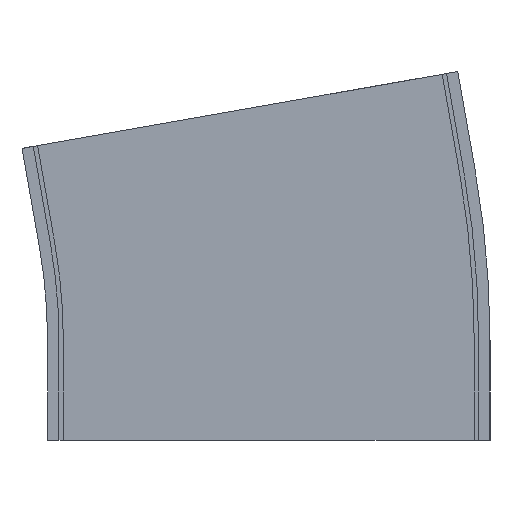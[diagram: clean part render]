
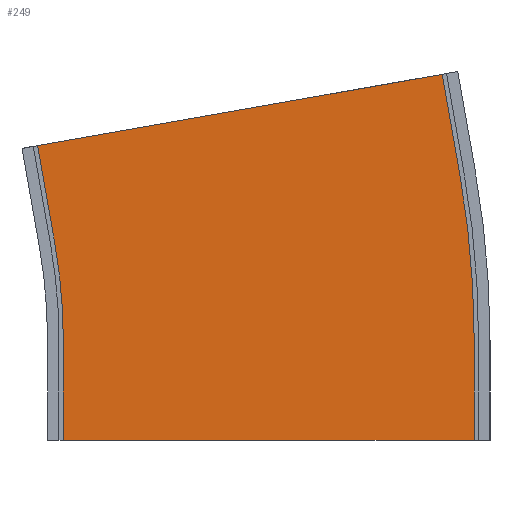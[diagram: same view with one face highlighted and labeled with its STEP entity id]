
A CAD part, front view. The second image highlights one B-rep face of the part: STEP entity #249.
In plain terms, the highlighted planar face has unit normal (0, -1, 0).
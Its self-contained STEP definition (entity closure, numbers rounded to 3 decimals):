
#52 = EDGE_CURVE ( 'NONE', #1916, #512, #1561, .T. ) ;
#56 = DIRECTION ( 'NONE',  ( 0.174, 0., -0.985 ) ) ;
#84 = EDGE_CURVE ( 'NONE', #2096, #1271, #615, .T. ) ;
#137 = CARTESIAN_POINT ( 'NONE',  ( 0., -68.25, -52.5 ) ) ;
#148 = DIRECTION ( 'NONE',  ( 0., 0., 1. ) ) ;
#198 = DIRECTION ( 'NONE',  ( 0.174, 0., -0.985 ) ) ;
#201 = ORIENTED_EDGE ( 'NONE', *, *, #84, .F. ) ;
#237 = EDGE_CURVE ( 'NONE', #397, #2291, #1264, .T. ) ;
#249 = ADVANCED_FACE ( 'NONE', ( #1466 ), #1259, .F. ) ;
#255 = VECTOR ( 'NONE', #198, 1000. ) ;
#256 = ORIENTED_EDGE ( 'NONE', *, *, #1845, .T. ) ;
#267 = ORIENTED_EDGE ( 'NONE', *, *, #1706, .T. ) ;
#282 = CARTESIAN_POINT ( 'NONE',  ( 500.233, -68.25, 88.205 ) ) ;
#314 = LINE ( 'NONE', #2038, #909 ) ;
#339 = EDGE_CURVE ( 'NONE', #2291, #1747, #314, .T. ) ;
#373 = LINE ( 'NONE', #388, #1651 ) ;
#388 = CARTESIAN_POINT ( 'NONE',  ( 507.95, -68.25, -52.5 ) ) ;
#397 = VERTEX_POINT ( 'NONE', #1480 ) ;
#506 = EDGE_CURVE ( 'NONE', #1271, #1916, #952, .T. ) ;
#507 = CARTESIAN_POINT ( 'NONE',  ( 292.05, -68.25, -52.5 ) ) ;
#508 = DIRECTION ( 'NONE',  ( 0., 1., 0. ) ) ;
#512 = VERTEX_POINT ( 'NONE', #565 ) ;
#565 = CARTESIAN_POINT ( 'NONE',  ( 507.95, -68.25, 0. ) ) ;
#615 = LINE ( 'NONE', #1173, #1057 ) ;
#666 = ORIENTED_EDGE ( 'NONE', *, *, #237, .F. ) ;
#728 = ORIENTED_EDGE ( 'NONE', *, *, #2433, .T. ) ;
#880 = VECTOR ( 'NONE', #1659, 1000. ) ;
#901 = AXIS2_PLACEMENT_3D ( 'NONE', #1187, #1948, #1757 ) ;
#904 = CARTESIAN_POINT ( 'NONE',  ( 278.497, -68.25, 102.416 ) ) ;
#909 = VECTOR ( 'NONE', #148, 1000. ) ;
#932 = ORIENTED_EDGE ( 'NONE', *, *, #506, .F. ) ;
#952 = LINE ( 'NONE', #2111, #255 ) ;
#1043 = ORIENTED_EDGE ( 'NONE', *, *, #339, .F. ) ;
#1057 = VECTOR ( 'NONE', #2320, 1000. ) ;
#1090 = ORIENTED_EDGE ( 'NONE', *, *, #52, .F. ) ;
#1115 = EDGE_LOOP ( 'NONE', ( #256, #1043, #666, #728, #1090, #932, #201, #267 ) ) ;
#1173 = CARTESIAN_POINT ( 'NONE',  ( -9.117, -68.25, 51.702 ) ) ;
#1186 = CARTESIAN_POINT ( 'NONE',  ( 292.05, -68.25, 0. ) ) ;
#1187 = CARTESIAN_POINT ( 'NONE',  ( 0., -68.25, 0. ) ) ;
#1199 = CARTESIAN_POINT ( 'NONE',  ( 278.497, -68.25, 102.416 ) ) ;
#1259 = PLANE ( 'NONE',  #2145 ) ;
#1264 = LINE ( 'NONE', #137, #880 ) ;
#1271 = VERTEX_POINT ( 'NONE', #2150 ) ;
#1466 = FACE_OUTER_BOUND ( 'NONE', #1115, .T. ) ;
#1480 = CARTESIAN_POINT ( 'NONE',  ( 507.95, -68.25, -52.5 ) ) ;
#1523 = DIRECTION ( 'NONE',  ( 0., 0., 1. ) ) ;
#1561 = CIRCLE ( 'NONE', #901, 507.95 ) ;
#1621 = DIRECTION ( 'NONE',  ( 0., 1., 0. ) ) ;
#1639 = CARTESIAN_POINT ( 'NONE',  ( 0., -68.25, 0. ) ) ;
#1651 = VECTOR ( 'NONE', #1523, 1000. ) ;
#1659 = DIRECTION ( 'NONE',  ( -1., 0., 0. ) ) ;
#1693 = CARTESIAN_POINT ( 'NONE',  ( 287.613, -68.25, 50.714 ) ) ;
#1706 = EDGE_CURVE ( 'NONE', #2096, #1984, #1840, .T. ) ;
#1747 = VERTEX_POINT ( 'NONE', #1186 ) ;
#1757 = DIRECTION ( 'NONE',  ( -1., 0., 0. ) ) ;
#1835 = CARTESIAN_POINT ( 'NONE',  ( 287.613, -68.25, 50.714 ) ) ;
#1840 = LINE ( 'NONE', #1199, #1922 ) ;
#1845 = EDGE_CURVE ( 'NONE', #1984, #1747, #2443, .T. ) ;
#1916 = VERTEX_POINT ( 'NONE', #282 ) ;
#1922 = VECTOR ( 'NONE', #56, 1000. ) ;
#1948 = DIRECTION ( 'NONE',  ( 0., 1., 0. ) ) ;
#1984 = VERTEX_POINT ( 'NONE', #1693 ) ;
#2038 = CARTESIAN_POINT ( 'NONE',  ( 292.05, -68.25, -52.5 ) ) ;
#2096 = VERTEX_POINT ( 'NONE', #904 ) ;
#2111 = CARTESIAN_POINT ( 'NONE',  ( 491.117, -68.25, 139.907 ) ) ;
#2145 = AXIS2_PLACEMENT_3D ( 'NONE', #1835, #508, #2389 ) ;
#2150 = CARTESIAN_POINT ( 'NONE',  ( 491.117, -68.25, 139.907 ) ) ;
#2291 = VERTEX_POINT ( 'NONE', #507 ) ;
#2304 = AXIS2_PLACEMENT_3D ( 'NONE', #1639, #1621, #2371 ) ;
#2320 = DIRECTION ( 'NONE',  ( 0.985, 0., 0.174 ) ) ;
#2371 = DIRECTION ( 'NONE',  ( -1., 0., 0. ) ) ;
#2389 = DIRECTION ( 'NONE',  ( -1., 0., 0. ) ) ;
#2433 = EDGE_CURVE ( 'NONE', #397, #512, #373, .T. ) ;
#2443 = CIRCLE ( 'NONE', #2304, 292.05 ) ;
